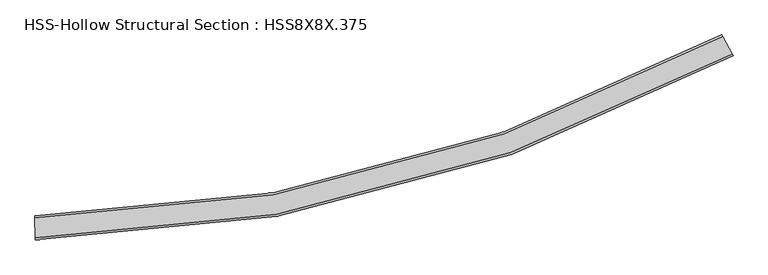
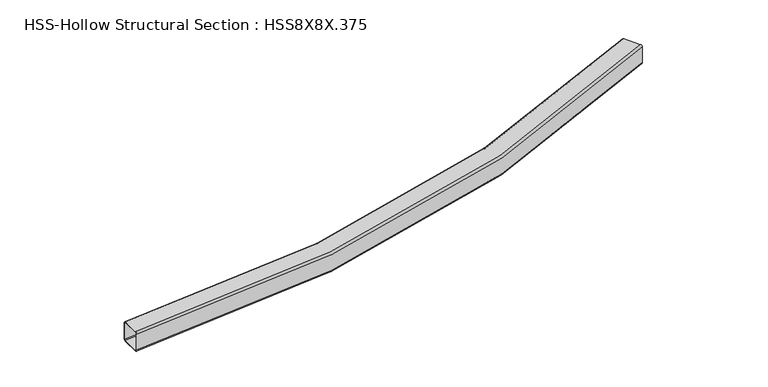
"""IFC4 building model written with IfcOpenShell, lengths in millimetres: beam geometry, HSS-Hollow Structural Section : HSS8X8X.375."""

from ifc_helpers import new_model, si_unit, point, frame, origin, place, context, project, spatial, polyline, circle_curve, ellipse_curve, trimmed, source, transform, mapped, element, save
from ifc_brep_helpers import plane_surface, cylinder_surface, revolved_surface, advanced_brep


def hss_hollow_structural_section_hss8x8x_375_31d8bada(model_context):
    return source(origin(), model_context, "Body", "AdvancedBrep", [
        advanced_brep(
        [(6121.7238156, 1466.3923014, 83.9390625), (6121.7238156, 1466.3923014, -83.9390625), (6113.2336242, 1481.8785974, -101.6), (6032.5291082, 1629.0854109, -101.6), (6024.0389168, 1644.5717069, -83.9390625), (6024.0389168, 1644.5717069, 83.9390625), (6032.5291082, 1629.0854109, 101.6), (6113.2336242, 1481.8785974, 101.6), (6032.5291082, 1629.0854109, 92.7695312), (6028.2840125, 1636.8285589, 83.9390625), (6028.2840125, 1636.8285589, -83.9390625), (6032.5291082, 1629.0854109, -92.7695313), (6113.2336242, 1481.8785974, -92.7695313), (6117.4787199, 1474.1354494, -83.9390625), (6117.4787199, 1474.1354494, 83.9390625), (6113.2336242, 1481.8785974, 92.7695312), (187.7413355, -100.2159767, 83.9390625), (187.4809579, -82.5569587, 101.6), (185.0059077, 85.3029203, 101.6), (184.7455301, 102.9619383, 83.9390625), (184.7455301, 102.9619383, -83.9390625), (185.0059077, 85.3029203, -101.6), (187.4809579, -82.5569587, -101.6), (187.7413355, -100.2159767, -83.9390625), (185.0059077, 85.3029203, 92.7695312), (187.4809579, -82.5569587, 92.7695312), (187.6111467, -91.3864677, 83.9390625), (187.6111467, -91.3864677, -83.9390625), (187.4809579, -82.5569587, -92.7695313), (185.0059077, 85.3029203, -92.7695313), (184.8757189, 94.1324293, -83.9390625), (184.8757189, 94.1324293, 83.9390625)],
        [
            (0, 1),
            (1, 2, circle_curve(frame((6113.2336242, 1481.8785974, -83.9390625), z_axis=(0.8768671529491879, 0.48073276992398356, 0.0), x_axis=(-0.48073276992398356, 0.8768671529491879, 0.0)), 17.6609375)),
            (2, 3),
            (3, 4, circle_curve(frame((6032.5291082, 1629.0854109, -83.9390625), z_axis=(0.8768671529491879, 0.48073276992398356, 0.0), x_axis=(-0.48073276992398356, 0.8768671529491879, 0.0)), 17.6609375)),
            (4, 5),
            (5, 6, circle_curve(frame((6032.5291082, 1629.0854109, 83.9390625), z_axis=(0.8768671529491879, 0.48073276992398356, 0.0), x_axis=(-0.48073276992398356, 0.8768671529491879, 0.0)), 17.6609375)),
            (6, 7),
            (7, 0, circle_curve(frame((6113.2336242, 1481.8785974, 83.9390625), z_axis=(0.8768671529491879, 0.48073276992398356, 0.0), x_axis=(-0.48073276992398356, 0.8768671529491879, 0.0)), 17.6609375)),
            (8, 9, circle_curve(frame((6032.5291082, 1629.0854109, 83.9390625), z_axis=(-0.8768671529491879, -0.48073276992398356, 0.0), x_axis=(-0.48073276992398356, 0.8768671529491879, 0.0)), 8.8304688)),
            (9, 10),
            (10, 11, circle_curve(frame((6032.5291082, 1629.0854109, -83.9390625), z_axis=(-0.8768671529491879, -0.48073276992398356, 0.0), x_axis=(-0.48073276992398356, 0.8768671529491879, 0.0)), 8.8304688)),
            (11, 12),
            (12, 13, circle_curve(frame((6113.2336242, 1481.8785974, -83.9390625), z_axis=(-0.8768671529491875, -0.4807327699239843, 0.0), x_axis=(-0.4807327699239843, 0.8768671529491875, 0.0)), 8.8304688)),
            (13, 14),
            (14, 15, circle_curve(frame((6113.2336242, 1481.8785974, 83.9390625), z_axis=(-0.8768671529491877, -0.4807327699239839, 0.0), x_axis=(-0.4807327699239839, 0.8768671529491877, 0.0)), 8.8304688)),
            (15, 8),
            (16, 17, circle_curve(frame((187.4809579, -82.5569587, 83.9390625), z_axis=(-0.999891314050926, -0.014743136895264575, 0.0), x_axis=(-0.014743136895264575, 0.999891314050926, 0.0)), 17.6609375)),
            (17, 18),
            (18, 19, circle_curve(frame((185.0059077, 85.3029203, 83.9390625), z_axis=(-0.999891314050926, -0.014743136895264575, 0.0), x_axis=(-0.014743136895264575, 0.999891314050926, 0.0)), 17.6609375)),
            (19, 20),
            (20, 21, circle_curve(frame((185.0059077, 85.3029203, -83.9390625), z_axis=(-0.999891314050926, -0.014743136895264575, 0.0), x_axis=(-0.014743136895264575, 0.999891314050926, 0.0)), 17.6609375)),
            (21, 22),
            (22, 23, circle_curve(frame((187.4809579, -82.5569587, -83.9390625), z_axis=(-0.999891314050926, -0.014743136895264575, 0.0), x_axis=(-0.014743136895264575, 0.999891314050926, 0.0)), 17.6609375)),
            (23, 16),
            (24, 25),
            (25, 26, circle_curve(frame((187.4809579, -82.5569587, 83.9390625), z_axis=(0.999891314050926, 0.014743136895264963, 0.0), x_axis=(-0.014743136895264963, 0.999891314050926, 0.0)), 8.8304688)),
            (26, 27),
            (27, 28, circle_curve(frame((187.4809579, -82.5569587, -83.9390625), z_axis=(0.999891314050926, 0.014743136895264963, 0.0), x_axis=(-0.014743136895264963, 0.999891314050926, 0.0)), 8.8304688)),
            (28, 29),
            (29, 30, circle_curve(frame((185.0059077, 85.3029203, -83.9390625), z_axis=(0.999891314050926, 0.014743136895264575, 0.0), x_axis=(-0.014743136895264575, 0.999891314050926, 0.0)), 8.8304688)),
            (30, 31),
            (31, 24, circle_curve(frame((185.0059077, 85.3029203, 83.9390625), z_axis=(0.999891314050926, 0.014743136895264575, 0.0), x_axis=(-0.014743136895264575, 0.999891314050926, 0.0)), 8.8304688)),
            (7, 17, circle_curve(frame((0.0, 12632.5512762, 101.6), z_axis=(0.0, 0.0, -1.0), x_axis=(-0.5014171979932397, 0.8652056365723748, 0.0)), 12716.4903387)),
            (16, 0, circle_curve(frame((0.0, 12632.5512762, 83.9390625), z_axis=(0.0, 0.0, 1.0), x_axis=(-0.5014171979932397, 0.8652056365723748, 0.0)), 12734.1512762)),
            (6, 18, circle_curve(frame((0.0, 12632.5512762, 101.6), z_axis=(0.0, 0.0, -1.0), x_axis=(-0.5014171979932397, 0.8652056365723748, 0.0)), 12548.6122137)),
            (5, 19, circle_curve(frame((0.0, 12632.5512762, 83.9390625), z_axis=(0.0, 0.0, -1.0), x_axis=(-0.5014171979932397, 0.8652056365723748, 0.0)), 12530.9512762)),
            (4, 20, circle_curve(frame((0.0, 12632.5512762, -83.9390625), z_axis=(0.0, 0.0, -1.0), x_axis=(-0.5014171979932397, 0.8652056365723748, 0.0)), 12530.9512762)),
            (3, 21, circle_curve(frame((0.0, 12632.5512762, -101.6), z_axis=(0.0, 0.0, -1.0), x_axis=(-0.5014171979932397, 0.8652056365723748, 0.0)), 12548.6122137)),
            (2, 22, circle_curve(frame((0.0, 12632.5512762, -101.6), z_axis=(0.0, 0.0, -1.0), x_axis=(-0.5014171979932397, 0.8652056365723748, 0.0)), 12716.4903387)),
            (1, 23, circle_curve(frame((0.0, 12632.5512762, -83.9390625), z_axis=(0.0, 0.0, -1.0), x_axis=(-0.5014171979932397, 0.8652056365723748, 0.0)), 12734.1512762)),
            (15, 25, circle_curve(frame((0.0, 12632.5512762, 92.7695312), z_axis=(0.0, 0.0, -1.0), x_axis=(-0.5014171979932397, 0.8652056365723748, 0.0)), 12716.4903387)),
            (24, 8, circle_curve(frame((0.0, 12632.5512762, 92.7695312), z_axis=(0.0, 0.0, 1.0), x_axis=(-0.5014171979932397, 0.8652056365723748, 0.0)), 12548.6122137)),
            (14, 26, circle_curve(frame((0.0, 12632.5512762, 83.9390625), z_axis=(0.0, 0.0, -1.0), x_axis=(-0.5014171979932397, 0.8652056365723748, 0.0)), 12725.3208075)),
            (13, 27, circle_curve(frame((0.0, 12632.5512762, -83.9390625), z_axis=(0.0, 0.0, -1.0), x_axis=(-0.5014171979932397, 0.8652056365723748, 0.0)), 12725.3208075)),
            (12, 28, circle_curve(frame((0.0, 12632.5512762, -92.7695313), z_axis=(0.0, 0.0, -1.0), x_axis=(-0.5014171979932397, 0.8652056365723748, 0.0)), 12716.4903387)),
            (11, 29, circle_curve(frame((0.0, 12632.5512762, -92.7695313), z_axis=(0.0, 0.0, -1.0), x_axis=(-0.5014171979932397, 0.8652056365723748, 0.0)), 12548.6122137)),
            (10, 30, circle_curve(frame((0.0, 12632.5512762, -83.9390625), z_axis=(0.0, 0.0, -1.0), x_axis=(-0.5014171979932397, 0.8652056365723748, 0.0)), 12539.781745)),
            (9, 31, circle_curve(frame((0.0, 12632.5512762, 83.9390625), z_axis=(0.0, 0.0, -1.0), x_axis=(-0.5014171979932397, 0.8652056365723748, 0.0)), 12539.781745)),
        ],
        [
            plane_surface(frame((6072.8813662, 1555.4820042, 0.0), z_axis=(0.8768671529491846, 0.4807327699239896, 0.0), x_axis=(0.0, 0.0, 1.0))),
            plane_surface(frame((186.2434328, 1.3729808, 0.0), z_axis=(-0.9998913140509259, -0.014743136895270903, 0.0), x_axis=(0.0, 0.0, 1.0))),
            revolved_surface(trimmed(ellipse_curve(frame((-6376.2669539, 23634.9303947, 83.9390625), z_axis=(-0.8652056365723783, -0.5014171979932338, 0.0), x_axis=(0.5014171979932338, -0.8652056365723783, 0.0)), 17.6609375, 17.6609375), [point((-6376.2669539, 23634.9303947, 101.6))], [point((-6385.1224517, 23650.2107374, 83.9390625))], True, "CARTESIAN"), (0.0, 12632.5512762, 0.0), (0.0, 0.0, -1.0)),
            plane_surface(frame((0.0, 12632.5512762, 101.6), z_axis=(0.0, 0.0, 1.0), x_axis=(-0.5014171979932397, 0.8652056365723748, 0.0))),
            revolved_surface(trimmed(ellipse_curve(frame((-6292.0899749, 23489.6812947, 83.9390625), z_axis=(-0.8652056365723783, -0.5014171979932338, 0.0), x_axis=(0.5014171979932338, -0.8652056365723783, 0.0)), 17.6609375, 17.6609375), [point((-6283.2344771, 23474.400952, 83.9390625))], [point((-6292.0899749, 23489.6812947, 101.6))], True, "CARTESIAN"), (0.0, 12632.5512762, 0.0), (0.0, 0.0, -1.0)),
            revolved_surface(polyline([(-6283.234477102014, 23474.400951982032, -83.9390625), (-6283.234477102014, 23474.400951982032, 83.9390625)]), (0.0, 12632.5512762, 0.0), (0.0, 0.0, -1.0)),
            revolved_surface(trimmed(ellipse_curve(frame((-6292.0899749, 23489.6812947, -83.9390625), z_axis=(-0.8652056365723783, -0.5014171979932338, 0.0), x_axis=(0.5014171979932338, -0.8652056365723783, 0.0)), 17.6609375, 17.6609375), [point((-6292.0899749, 23489.6812947, -101.6))], [point((-6283.2344771, 23474.400952, -83.9390625))], True, "CARTESIAN"), (0.0, 12632.5512762, 0.0), (0.0, 0.0, -1.0)),
            plane_surface(frame((0.0, 12632.5512762, -101.6), z_axis=(0.0, 0.0, -1.0), x_axis=(-0.5014171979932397, 0.8652056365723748, 0.0))),
            revolved_surface(trimmed(ellipse_curve(frame((-6376.2669539, 23634.9303947, -83.9390625), z_axis=(-0.8652056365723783, -0.5014171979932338, 0.0), x_axis=(0.5014171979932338, -0.8652056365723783, 0.0)), 17.6609375, 17.6609375), [point((-6385.1224517, 23650.2107374, -83.9390625))], [point((-6376.2669539, 23634.9303947, -101.6))], True, "CARTESIAN"), (0.0, 12632.5512762, 0.0), (0.0, 0.0, -1.0)),
            cylinder_surface(frame((0.0, 12632.5512762, 0.0), z_axis=(0.0, 0.0, -1.0), x_axis=(-0.5014171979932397, 0.8652056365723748, 0.0)), 12734.1512762),
            plane_surface(frame((0.0, 12632.5512762, 92.7695312), z_axis=(0.0, 0.0, -1.0), x_axis=(-0.5014171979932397, 0.8652056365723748, 0.0))),
            revolved_surface(trimmed(ellipse_curve(frame((-6376.2669539, 23634.9303947, 83.9390625), z_axis=(0.865205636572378, 0.5014171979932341, 0.0), x_axis=(0.5014171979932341, -0.865205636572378, 0.0)), 8.8304688, 8.8304688), [point((-6380.6947028, 23642.570566, 83.9390625))], [point((-6376.2669539, 23634.9303947, 92.7695312))], True, "CARTESIAN"), (0.0, 12632.5512762, 0.0), (0.0, 0.0, -1.0)),
            revolved_surface(polyline([(-6380.6947028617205, 23642.570566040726, -83.9390625), (-6380.6947028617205, 23642.570566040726, 83.9390625)]), (0.0, 12632.5512762, 0.0), (0.0, 0.0, -1.0)),
            revolved_surface(trimmed(ellipse_curve(frame((-6376.2669539, 23634.9303947, -83.9390625), z_axis=(0.865205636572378, 0.5014171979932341, 0.0), x_axis=(0.5014171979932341, -0.865205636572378, 0.0)), 8.8304688, 8.8304688), [point((-6376.2669539, 23634.9303947, -92.7695313))], [point((-6380.6947028, 23642.570566, -83.9390625))], True, "CARTESIAN"), (0.0, 12632.5512762, 0.0), (0.0, 0.0, -1.0)),
            plane_surface(frame((0.0, 12632.5512762, -92.7695313), z_axis=(0.0, 0.0, 1.0), x_axis=(-0.5014171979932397, 0.8652056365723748, 0.0))),
            revolved_surface(trimmed(ellipse_curve(frame((-6292.0899749, 23489.6812947, -83.9390625), z_axis=(0.8652056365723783, 0.5014171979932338, 0.0), x_axis=(0.5014171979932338, -0.8652056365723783, 0.0)), 8.8304688, 8.8304688), [point((-6287.662226, 23482.0411234, -83.9390625))], [point((-6292.0899749, 23489.6812947, -92.7695313))], True, "CARTESIAN"), (0.0, 12632.5512762, 0.0), (0.0, 0.0, -1.0)),
            cylinder_surface(frame((0.0, 12632.5512762, 0.0), z_axis=(0.0, 0.0, -1.0), x_axis=(-0.5014171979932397, 0.8652056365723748, 0.0)), 12539.781745),
            revolved_surface(trimmed(ellipse_curve(frame((-6292.0899749, 23489.6812947, 83.9390625), z_axis=(0.8652056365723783, 0.5014171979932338, 0.0), x_axis=(0.5014171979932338, -0.8652056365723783, 0.0)), 8.8304688, 8.8304688), [point((-6292.0899749, 23489.6812947, 92.7695312))], [point((-6287.662226, 23482.0411234, 83.9390625))], True, "CARTESIAN"), (0.0, 12632.5512762, 0.0), (0.0, 0.0, -1.0)),
        ],
        [
            (0, [[1, 2, 3, 4, 5, 6, 7, 8], [9, 10, 11, 12, 13, 14, 15, 16]]),
            (1, [[17, 18, 19, 20, 21, 22, 23, 24], [25, 26, 27, 28, 29, 30, 31, 32]]),
            (2, [[33, -17, 34, -8]]),
            (3, [[35, -18, -33, -7]]),
            (4, [[36, -19, -35, -6]]),
            (5, [[37, -20, -36, -5]]),
            (6, [[38, -21, -37, -4]]),
            (7, [[39, -22, -38, -3]]),
            (8, [[40, -23, -39, -2]]),
            (9, [[-34, -24, -40, -1]]),
            (10, [[41, -25, 42, -16]]),
            (11, [[43, -26, -41, -15]]),
            (12, [[44, -27, -43, -14]]),
            (13, [[45, -28, -44, -13]]),
            (14, [[46, -29, -45, -12]]),
            (15, [[47, -30, -46, -11]]),
            (16, [[48, -31, -47, -10]]),
            (17, [[-42, -32, -48, -9]]),
        ],
    ),
    ])


if __name__ == "__main__":
    model = new_model("IFC4")
    model_context = context("Model", 3, world=origin())
    ifc_project = project(units=[si_unit("LENGTHUNIT", "METRE", prefix="MILLI")], contexts=[model_context])
    site = spatial("IfcSite", under=ifc_project)
    building = spatial("IfcBuilding", under=site)
    placement = place(None, origin())
    hss_hollow_structural_section_hss8x8x_375_shape = hss_hollow_structural_section_hss8x8x_375_31d8bada(model_context)
    element("IfcBeam", 1, ObjectType="HSS-Hollow Structural Section : HSS8X8X.375", at=placement, inside=building, context=model_context, shape_type="MappedRepresentation", body=[
        mapped(hss_hollow_structural_section_hss8x8x_375_shape, transform((0.0, 0.0, 0.0), x_axis=(1.0, 0.0, 0.0), y_axis=(0.0, 1.0, 0.0), z_axis=(0.0, 0.0, 1.0))),
    ])
    save(model, "model.ifc")
